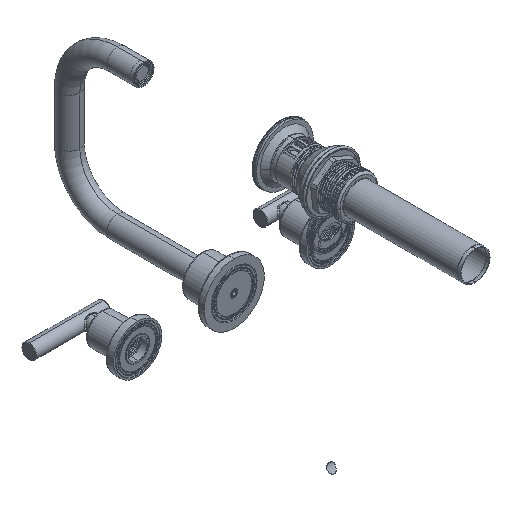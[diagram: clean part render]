
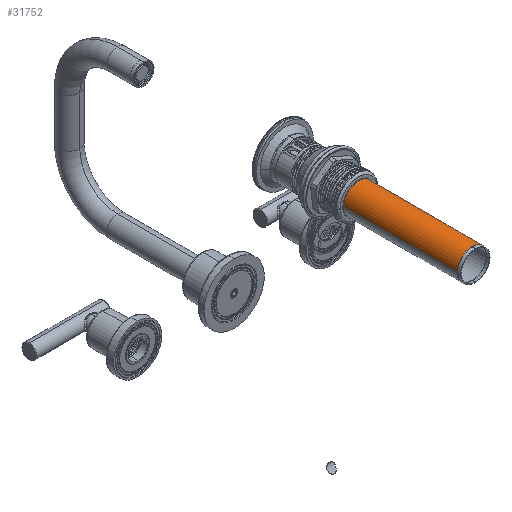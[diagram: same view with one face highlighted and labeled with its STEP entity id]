
A CAD part, isometric view. The second image highlights one B-rep face of the part: STEP entity #31752.
In plain terms, the highlighted cylindrical face has radius 15.875 mm (diameter 31.75 mm), a partial arc.
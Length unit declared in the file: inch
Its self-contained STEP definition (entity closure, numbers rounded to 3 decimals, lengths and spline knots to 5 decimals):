
#893 = AXIS2_PLACEMENT_3D ( 'NONE', #14795, #35581, #52491 ) ;
#1121 = VERTEX_POINT ( 'NONE', #22312 ) ;
#3632 = AXIS2_PLACEMENT_3D ( 'NONE', #44327, #26326, #6354 ) ;
#4151 = CARTESIAN_POINT ( 'NONE',  ( 0., -5.75874, 6. ) ) ;
#5134 = VECTOR ( 'NONE', #20461, 39.37008 ) ;
#5921 = VERTEX_POINT ( 'NONE', #6120 ) ;
#6107 = LINE ( 'NONE', #53483, #23044 ) ;
#6120 = CARTESIAN_POINT ( 'NONE',  ( 0., -10.54658, 6.625 ) ) ;
#6354 = DIRECTION ( 'NONE',  ( 1., 0., 0. ) ) ;
#7590 = LINE ( 'NONE', #41683, #44404 ) ;
#8759 = VERTEX_POINT ( 'NONE', #9392 ) ;
#9392 = CARTESIAN_POINT ( 'NONE',  ( 0.625, -10.5422, 6. ) ) ;
#10737 = CIRCLE ( 'NONE', #3632, 0.625 ) ;
#11608 = LINE ( 'NONE', #33755, #5134 ) ;
#12204 = DIRECTION ( 'NONE',  ( 0., -1., 0. ) ) ;
#14795 = CARTESIAN_POINT ( 'NONE',  ( 0., -5.82567, 6. ) ) ;
#16375 = EDGE_CURVE ( 'NONE', #24007, #5921, #39553, .T. ) ;
#17452 = FACE_OUTER_BOUND ( 'NONE', #21779, .T. ) ;
#18127 = AXIS2_PLACEMENT_3D ( 'NONE', #4151, #12204, #42118 ) ;
#20461 = DIRECTION ( 'NONE',  ( 0., 1., 0. ) ) ;
#21779 = EDGE_LOOP ( 'NONE', ( #36277, #31402, #28280, #38987, #33597, #34609, #29932 ) ) ;
#22312 = CARTESIAN_POINT ( 'NONE',  ( -0.625, -5.82567, 6. ) ) ;
#22647 = VERTEX_POINT ( 'NONE', #30921 ) ;
#22737 = DIRECTION ( 'NONE',  ( 0., 1., 0. ) ) ;
#23044 = VECTOR ( 'NONE', #22737, 39.37008 ) ;
#24007 = VERTEX_POINT ( 'NONE', #52756 ) ;
#25010 = VERTEX_POINT ( 'NONE', #43623 ) ;
#25820 = EDGE_CURVE ( 'NONE', #8759, #25010, #11608, .T. ) ;
#26326 = DIRECTION ( 'NONE',  ( 0., -1., 0. ) ) ;
#26691 = DIRECTION ( 'NONE',  ( 0., 1., 0. ) ) ;
#28280 = ORIENTED_EDGE ( 'NONE', *, *, #16375, .T. ) ;
#28371 = LINE ( 'NONE', #49425, #51387 ) ;
#29540 = DIRECTION ( 'NONE',  ( 0., 0., -1. ) ) ;
#29758 = DIRECTION ( 'NONE',  ( 0., 1., 0. ) ) ;
#29932 = ORIENTED_EDGE ( 'NONE', *, *, #43157, .T. ) ;
#30921 = CARTESIAN_POINT ( 'NONE',  ( 0., -10.5422, 6.625 ) ) ;
#31402 = ORIENTED_EDGE ( 'NONE', *, *, #44293, .T. ) ;
#31752 = ADVANCED_FACE ( 'NONE', ( #17452 ), #37682, .T. ) ;
#32526 = DIRECTION ( 'NONE',  ( 0., -1., 0. ) ) ;
#33597 = ORIENTED_EDGE ( 'NONE', *, *, #45561, .F. ) ;
#33755 = CARTESIAN_POINT ( 'NONE',  ( 0.625, -10.5422, 6. ) ) ;
#33973 = CARTESIAN_POINT ( 'NONE',  ( 0., -10.54658, 6. ) ) ;
#34609 = ORIENTED_EDGE ( 'NONE', *, *, #25820, .T. ) ;
#35581 = DIRECTION ( 'NONE',  ( 0., -1., 0. ) ) ;
#35993 = VERTEX_POINT ( 'NONE', #46523 ) ;
#36277 = ORIENTED_EDGE ( 'NONE', *, *, #54655, .F. ) ;
#37682 = CYLINDRICAL_SURFACE ( 'NONE', #18127, 0.625 ) ;
#38987 = ORIENTED_EDGE ( 'NONE', *, *, #51179, .T. ) ;
#39553 = CIRCLE ( 'NONE', #40425, 0.625 ) ;
#40425 = AXIS2_PLACEMENT_3D ( 'NONE', #33973, #26691, #29540 ) ;
#41683 = CARTESIAN_POINT ( 'NONE',  ( -0.625, -10.5422, 6. ) ) ;
#42118 = DIRECTION ( 'NONE',  ( -1., 0., 0. ) ) ;
#43157 = EDGE_CURVE ( 'NONE', #25010, #1121, #49684, .T. ) ;
#43623 = CARTESIAN_POINT ( 'NONE',  ( 0.625, -5.82567, 6. ) ) ;
#44293 = EDGE_CURVE ( 'NONE', #35993, #24007, #28371, .T. ) ;
#44327 = CARTESIAN_POINT ( 'NONE',  ( 0., -10.5422, 6. ) ) ;
#44404 = VECTOR ( 'NONE', #29758, 39.37008 ) ;
#45561 = EDGE_CURVE ( 'NONE', #8759, #22647, #10737, .T. ) ;
#46523 = CARTESIAN_POINT ( 'NONE',  ( -0.625, -10.5422, 6. ) ) ;
#49425 = CARTESIAN_POINT ( 'NONE',  ( -0.625, -5.75874, 6. ) ) ;
#49684 = CIRCLE ( 'NONE', #893, 0.625 ) ;
#51179 = EDGE_CURVE ( 'NONE', #5921, #22647, #6107, .T. ) ;
#51387 = VECTOR ( 'NONE', #32526, 39.37008 ) ;
#52491 = DIRECTION ( 'NONE',  ( 1., 0., 0. ) ) ;
#52756 = CARTESIAN_POINT ( 'NONE',  ( -0.625, -10.54658, 6. ) ) ;
#53483 = CARTESIAN_POINT ( 'NONE',  ( 0., -10.54658, 6.625 ) ) ;
#54655 = EDGE_CURVE ( 'NONE', #35993, #1121, #7590, .T. ) ;
